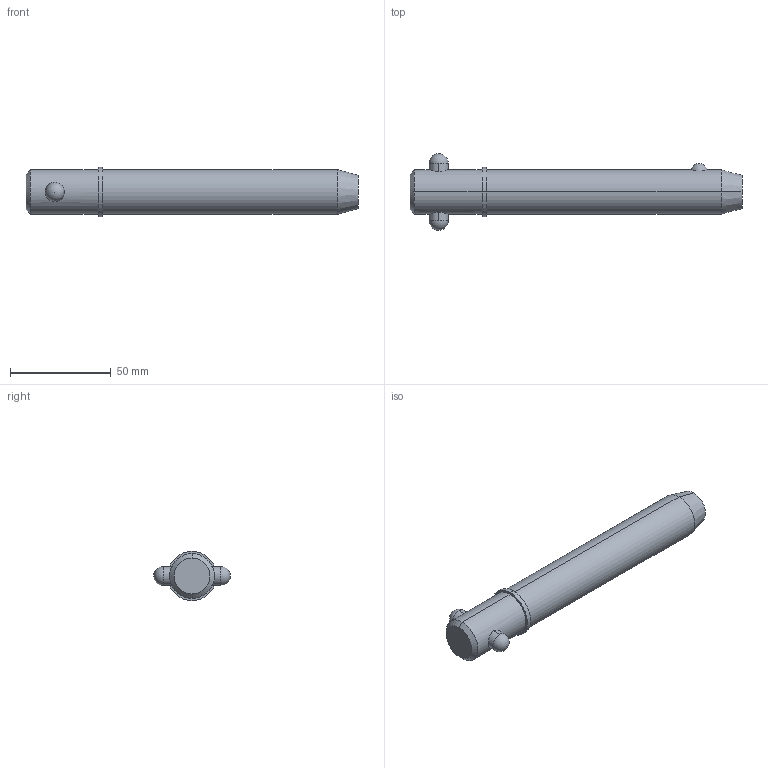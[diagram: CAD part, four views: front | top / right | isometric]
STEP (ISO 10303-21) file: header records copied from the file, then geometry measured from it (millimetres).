
FILE_DESCRIPTION (( 'STEP AP203' ), '1' );
FILE_NAME ('33018.W8840.step', '2024-11-19T17:22:35', ( '' ), ( '' ), 'SwSTEP 2.0', 'SolidWorks 2019', '' );
FILE_SCHEMA (( 'CONFIG_CONTROL_DESIGN' ));
Length unit declared in the file: millimetre
Products named in the file (3): Part1_33018.W8840; Part2_33018.W8840; 33018.W8840
Assembly tree (2 placements, depth 2):
  33018.W8840
    Part1_33018.W8840
    Part2_33018.W8840
Bounding box: 165.1 x 38.1 x 24.45 mm (x, y, z)
Volume: 64221.4 mm3; surface area: 13813.5 mm2
Topology: 2 solids, 2 shells, 22 faces, 47 edges, 30 vertices
Faces by surface type: cylinder 10, sphere 4, cone 4, plane 4
Entity records: 1057 total; most frequent: CARTESIAN_POINT 300, DIRECTION 110, ORIENTED_EDGE 82, AXIS2_PLACEMENT_3D 48, EDGE_CURVE 41, EDGE_LOOP 27, PERSON_AND_ORGANIZATION 26, VERTEX_POINT 26
